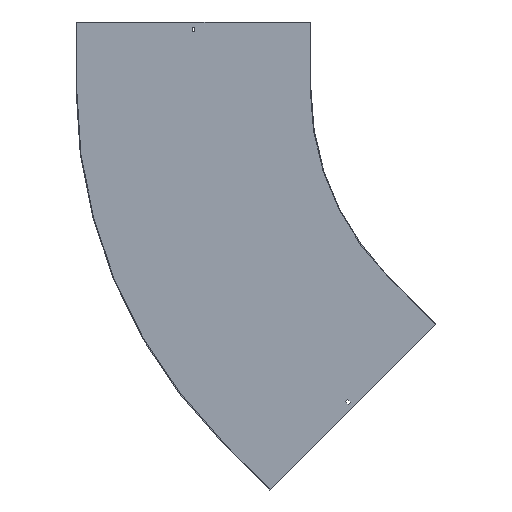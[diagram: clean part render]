
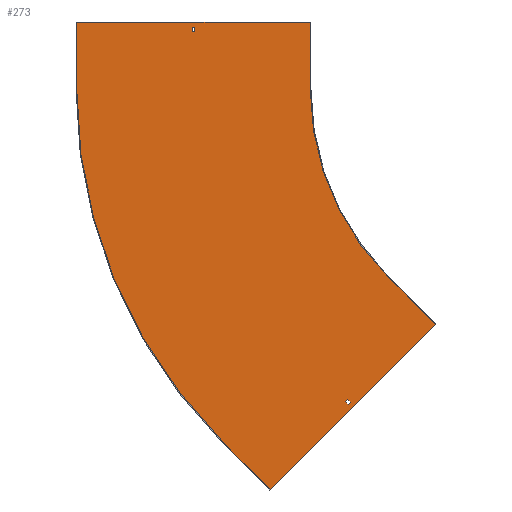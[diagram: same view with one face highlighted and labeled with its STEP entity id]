
A CAD part, front view. The second image highlights one B-rep face of the part: STEP entity #273.
In plain terms, the highlighted planar face has unit normal (0, -1, 0).
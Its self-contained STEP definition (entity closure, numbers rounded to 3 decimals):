
#6 = CARTESIAN_POINT ( 'NONE',  ( -678.823, -1.5, -890.955 ) ) ;
#8 = DIRECTION ( 'NONE',  ( 0., 0., -1. ) ) ;
#10 = CARTESIAN_POINT ( 'NONE',  ( -505.758, -1.5, -700.92 ) ) ;
#13 = LINE ( 'NONE', #756, #462 ) ;
#16 = DIRECTION ( 'NONE',  ( -0.707, 0., 0.707 ) ) ;
#19 = CARTESIAN_POINT ( 'NONE',  ( -784.889, -1.5, -784.889 ) ) ;
#33 = LINE ( 'NONE', #362, #220 ) ;
#42 = CARTESIAN_POINT ( 'NONE',  ( -678.823, -1.5, -890.955 ) ) ;
#47 = VECTOR ( 'NONE', #225, 1000. ) ;
#75 = CARTESIAN_POINT ( 'NONE',  ( -501.162, -1.5, -696.323 ) ) ;
#85 = CARTESIAN_POINT ( 'NONE',  ( 0., -1.5, 138. ) ) ;
#91 = CARTESIAN_POINT ( 'NONE',  ( -310.066, -1.5, -522.198 ) ) ;
#100 = VERTEX_POINT ( 'NONE', #10 ) ;
#112 = EDGE_CURVE ( 'NONE', #335, #488, #738, .T. ) ;
#126 = FACE_OUTER_BOUND ( 'NONE', #786, .T. ) ;
#141 = DIRECTION ( 'NONE',  ( -0.707, 0., -0.707 ) ) ;
#154 = EDGE_CURVE ( 'NONE', #533, #242, #502, .T. ) ;
#155 = DIRECTION ( 'NONE',  ( 0.707, 0., -0.707 ) ) ;
#157 = CARTESIAN_POINT ( 'NONE',  ( -311.127, -1.5, -523.259 ) ) ;
#158 = CARTESIAN_POINT ( 'NONE',  ( -507.526, -1.5, -689.959 ) ) ;
#161 = ORIENTED_EDGE ( 'NONE', *, *, #444, .T. ) ;
#168 = LINE ( 'NONE', #287, #603 ) ;
#170 = CARTESIAN_POINT ( 'NONE',  ( -590., -1.5, 150. ) ) ;
#171 = LINE ( 'NONE', #614, #350 ) ;
#173 = CARTESIAN_POINT ( 'NONE',  ( -1111.5, -1.5, 150. ) ) ;
#189 = VERTEX_POINT ( 'NONE', #157 ) ;
#198 = ORIENTED_EDGE ( 'NONE', *, *, #211, .T. ) ;
#208 = ORIENTED_EDGE ( 'NONE', *, *, #519, .F. ) ;
#211 = EDGE_CURVE ( 'NONE', #346, #418, #831, .T. ) ;
#217 = EDGE_CURVE ( 'NONE', #242, #611, #767, .T. ) ;
#220 = VECTOR ( 'NONE', #674, 1000. ) ;
#225 = DIRECTION ( 'NONE',  ( -0.707, 0., -0.707 ) ) ;
#232 = CARTESIAN_POINT ( 'NONE',  ( -1110., -1.5, 0. ) ) ;
#239 = VERTEX_POINT ( 'NONE', #366 ) ;
#242 = VERTEX_POINT ( 'NONE', #170 ) ;
#257 = ORIENTED_EDGE ( 'NONE', *, *, #112, .F. ) ;
#273 = ADVANCED_FACE ( 'NONE', ( #838, #126, #850 ), #709, .T. ) ;
#281 = DIRECTION ( 'NONE',  ( 0., 1., 0. ) ) ;
#285 = VECTOR ( 'NONE', #778, 1000. ) ;
#287 = CARTESIAN_POINT ( 'NONE',  ( -846.75, -1.5, 0. ) ) ;
#297 = CARTESIAN_POINT ( 'NONE',  ( -417.193, -1.5, -417.193 ) ) ;
#306 = CARTESIAN_POINT ( 'NONE',  ( -512.122, -1.5, -694.556 ) ) ;
#330 = VECTOR ( 'NONE', #561, 1000. ) ;
#335 = VERTEX_POINT ( 'NONE', #42 ) ;
#346 = VERTEX_POINT ( 'NONE', #579 ) ;
#350 = VECTOR ( 'NONE', #621, 1000. ) ;
#352 = ORIENTED_EDGE ( 'NONE', *, *, #701, .F. ) ;
#354 = CARTESIAN_POINT ( 'NONE',  ( 0., -1.5, 0. ) ) ;
#362 = CARTESIAN_POINT ( 'NONE',  ( -417.193, -1.5, -417.193 ) ) ;
#365 = VECTOR ( 'NONE', #141, 1000. ) ;
#366 = CARTESIAN_POINT ( 'NONE',  ( -853.25, -1.5, 138. ) ) ;
#392 = DIRECTION ( 'NONE',  ( 0., 0., -1. ) ) ;
#408 = EDGE_CURVE ( 'NONE', #717, #346, #168, .T. ) ;
#416 = CARTESIAN_POINT ( 'NONE',  ( 0., -1.5, 0. ) ) ;
#418 = VERTEX_POINT ( 'NONE', #494 ) ;
#421 = ORIENTED_EDGE ( 'NONE', *, *, #460, .F. ) ;
#425 = DIRECTION ( 'NONE',  ( -1., 0., 0. ) ) ;
#428 = DIRECTION ( 'NONE',  ( 0., 0., 1. ) ) ;
#434 = EDGE_CURVE ( 'NONE', #853, #189, #33, .T. ) ;
#438 = EDGE_CURVE ( 'NONE', #452, #100, #817, .T. ) ;
#442 = ORIENTED_EDGE ( 'NONE', *, *, #821, .F. ) ;
#444 = EDGE_CURVE ( 'NONE', #239, #717, #692, .T. ) ;
#452 = VERTEX_POINT ( 'NONE', #306 ) ;
#455 = ORIENTED_EDGE ( 'NONE', *, *, #154, .F. ) ;
#460 = EDGE_CURVE ( 'NONE', #100, #663, #171, .T. ) ;
#462 = VECTOR ( 'NONE', #428, 1000. ) ;
#464 = EDGE_CURVE ( 'NONE', #418, #239, #13, .T. ) ;
#469 = EDGE_LOOP ( 'NONE', ( #161, #583, #198, #507 ) ) ;
#488 = VERTEX_POINT ( 'NONE', #19 ) ;
#493 = EDGE_CURVE ( 'NONE', #189, #335, #814, .T. ) ;
#494 = CARTESIAN_POINT ( 'NONE',  ( -853.25, -1.5, 129. ) ) ;
#495 = ORIENTED_EDGE ( 'NONE', *, *, #434, .F. ) ;
#502 = LINE ( 'NONE', #173, #589 ) ;
#507 = ORIENTED_EDGE ( 'NONE', *, *, #464, .T. ) ;
#519 = EDGE_CURVE ( 'NONE', #663, #793, #652, .T. ) ;
#528 = VERTEX_POINT ( 'NONE', #781 ) ;
#533 = VERTEX_POINT ( 'NONE', #771 ) ;
#541 = CARTESIAN_POINT ( 'NONE',  ( -846.75, -1.5, 138. ) ) ;
#561 = DIRECTION ( 'NONE',  ( 1., 0., 0. ) ) ;
#565 = DIRECTION ( 'NONE',  ( 0., 0., -1. ) ) ;
#568 = CARTESIAN_POINT ( 'NONE',  ( -603.339, -1.5, -603.339 ) ) ;
#572 = ORIENTED_EDGE ( 'NONE', *, *, #641, .F. ) ;
#579 = CARTESIAN_POINT ( 'NONE',  ( -846.75, -1.5, 129. ) ) ;
#583 = ORIENTED_EDGE ( 'NONE', *, *, #408, .T. ) ;
#589 = VECTOR ( 'NONE', #834, 1000. ) ;
#596 = CARTESIAN_POINT ( 'NONE',  ( 91.217, -1.5, -91.217 ) ) ;
#603 = VECTOR ( 'NONE', #565, 1000. ) ;
#605 = ORIENTED_EDGE ( 'NONE', *, *, #438, .F. ) ;
#611 = VERTEX_POINT ( 'NONE', #848 ) ;
#614 = CARTESIAN_POINT ( 'NONE',  ( 97.581, -1.5, -97.581 ) ) ;
#621 = DIRECTION ( 'NONE',  ( 0.707, 0., 0.707 ) ) ;
#622 = ORIENTED_EDGE ( 'NONE', *, *, #741, .F. ) ;
#641 = EDGE_CURVE ( 'NONE', #611, #853, #680, .T. ) ;
#645 = VECTOR ( 'NONE', #813, 1000. ) ;
#647 = AXIS2_PLACEMENT_3D ( 'NONE', #779, #773, #392 ) ;
#652 = LINE ( 'NONE', #787, #285 ) ;
#656 = AXIS2_PLACEMENT_3D ( 'NONE', #416, #281, #862 ) ;
#663 = VERTEX_POINT ( 'NONE', #75 ) ;
#674 = DIRECTION ( 'NONE',  ( 0.707, 0., -0.707 ) ) ;
#679 = CARTESIAN_POINT ( 'NONE',  ( -590., -1.5, 150. ) ) ;
#680 = CIRCLE ( 'NONE', #723, 590. ) ;
#682 = VECTOR ( 'NONE', #751, 1000. ) ;
#683 = CIRCLE ( 'NONE', #656, 1110. ) ;
#688 = LINE ( 'NONE', #232, #645 ) ;
#690 = CARTESIAN_POINT ( 'NONE',  ( 0., -1.5, 129. ) ) ;
#692 = LINE ( 'NONE', #85, #330 ) ;
#701 = EDGE_CURVE ( 'NONE', #793, #452, #715, .T. ) ;
#703 = ORIENTED_EDGE ( 'NONE', *, *, #217, .F. ) ;
#708 = VECTOR ( 'NONE', #155, 1000. ) ;
#709 = PLANE ( 'NONE',  #647 ) ;
#715 = LINE ( 'NONE', #596, #365 ) ;
#717 = VERTEX_POINT ( 'NONE', #541 ) ;
#721 = ORIENTED_EDGE ( 'NONE', *, *, #493, .F. ) ;
#723 = AXIS2_PLACEMENT_3D ( 'NONE', #354, #803, #8 ) ;
#738 = LINE ( 'NONE', #6, #770 ) ;
#739 = VECTOR ( 'NONE', #425, 1000. ) ;
#741 = EDGE_CURVE ( 'NONE', #488, #528, #683, .T. ) ;
#751 = DIRECTION ( 'NONE',  ( 0., 0., -1. ) ) ;
#756 = CARTESIAN_POINT ( 'NONE',  ( -853.25, -1.5, 0. ) ) ;
#759 = EDGE_LOOP ( 'NONE', ( #208, #421, #605, #352 ) ) ;
#767 = LINE ( 'NONE', #679, #682 ) ;
#770 = VECTOR ( 'NONE', #16, 1000. ) ;
#771 = CARTESIAN_POINT ( 'NONE',  ( -1110., -1.5, 150. ) ) ;
#773 = DIRECTION ( 'NONE',  ( 0., -1., 0. ) ) ;
#778 = DIRECTION ( 'NONE',  ( -0.707, 0., 0.707 ) ) ;
#779 = CARTESIAN_POINT ( 'NONE',  ( 0., -1.5, 0. ) ) ;
#781 = CARTESIAN_POINT ( 'NONE',  ( -1110., -1.5, 0. ) ) ;
#786 = EDGE_LOOP ( 'NONE', ( #455, #442, #622, #257, #721, #495, #572, #703 ) ) ;
#787 = CARTESIAN_POINT ( 'NONE',  ( -598.743, -1.5, -598.743 ) ) ;
#793 = VERTEX_POINT ( 'NONE', #158 ) ;
#803 = DIRECTION ( 'NONE',  ( 0., -1., 0. ) ) ;
#813 = DIRECTION ( 'NONE',  ( 0., 0., 1. ) ) ;
#814 = LINE ( 'NONE', #91, #47 ) ;
#817 = LINE ( 'NONE', #568, #708 ) ;
#821 = EDGE_CURVE ( 'NONE', #528, #533, #688, .T. ) ;
#831 = LINE ( 'NONE', #690, #739 ) ;
#834 = DIRECTION ( 'NONE',  ( 1., 0., 0. ) ) ;
#838 = FACE_BOUND ( 'NONE', #759, .T. ) ;
#848 = CARTESIAN_POINT ( 'NONE',  ( -590., -1.5, 0. ) ) ;
#850 = FACE_BOUND ( 'NONE', #469, .T. ) ;
#853 = VERTEX_POINT ( 'NONE', #297 ) ;
#862 = DIRECTION ( 'NONE',  ( 0., 0., -1. ) ) ;
